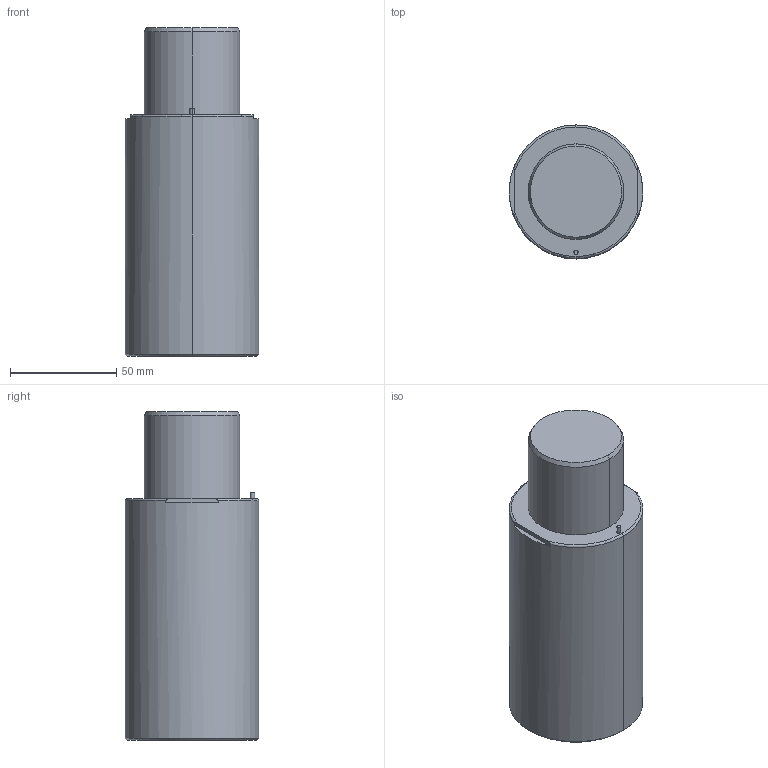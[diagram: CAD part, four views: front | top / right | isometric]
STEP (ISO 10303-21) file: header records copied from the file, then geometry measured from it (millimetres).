
FILE_DESCRIPTION(/* description */ (''),/* implementation_level */ '2;1');
FILE_NAME(/* name */ '3d_gsx63-38_03964_r00.stp',/* time_stamp */ '2011-01-10T14:15:12+09:00',/* author */ ('MISUMI'),/* organization */ (''),/* preprocessor_version */ 'ST-DEVELOPER v11',/* originating_system */ 'UGS - NX 5.0',/* authorisation */ '');
FILE_SCHEMA (('CONFIG_CONTROL_DESIGN'));
Length unit declared in the file: millimetre
Products named in the file (1): 3d_gsx63-38_03964_r00
Bounding box: 63 x 63 x 155 mm (x, y, z)
Volume: 416859.2 mm3; surface area: 36001.8 mm2
Topology: 1 solids, 1 shells, 59 faces, 130 edges, 78 vertices
Faces by surface type: cylinder 28, plane 15, cone 12, torus 4
Entity records: 1692 total; most frequent: DIRECTION 308, CARTESIAN_POINT 288, ORIENTED_EDGE 244, AXIS2_PLACEMENT_3D 130, EDGE_CURVE 122, VERTEX_POINT 78, EDGE_LOOP 72, CIRCLE 70
